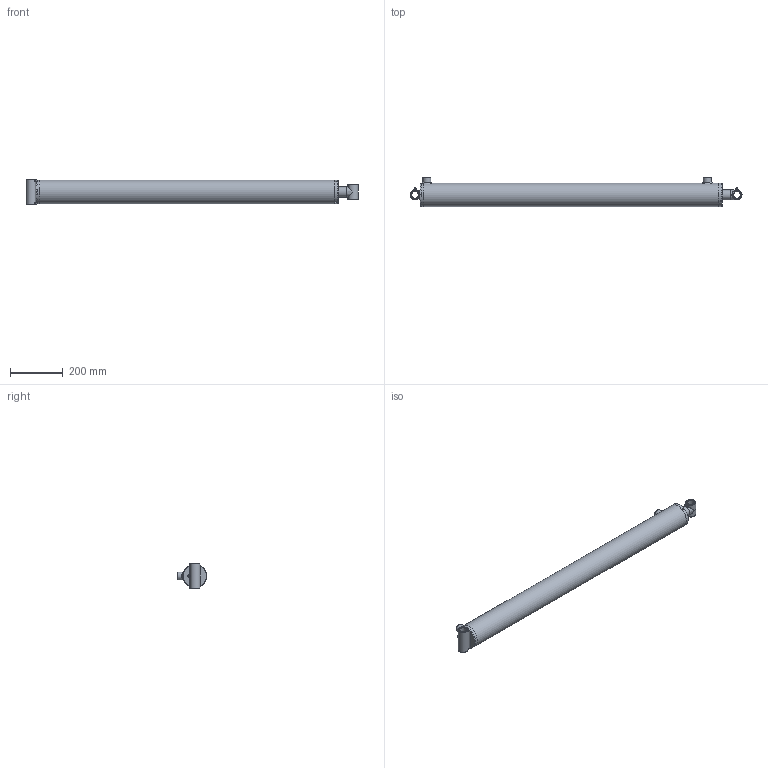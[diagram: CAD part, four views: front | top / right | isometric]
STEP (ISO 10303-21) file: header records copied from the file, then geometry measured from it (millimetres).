
FILE_DESCRIPTION(/* description */ (''),/* implementation_level */ '2;1');
FILE_NAME(/* name */ 'C:\01 - Philip\00 - Philip Rivard\01 - Contracts\Eagle Hydraulic Components\00 - 3D Cylinder\HBU3040\HBU3040.stp',/* time_stamp */ '2015-06-21T20:02:14-04:00',/* author */ ('Philip'),/* organization */ (''),/* preprocessor_version */ 'ST-DEVELOPER v16.1',/* originating_system */ 'Autodesk Inventor 2016',/* authorisation */ '');
FILE_SCHEMA (('AUTOMOTIVE_DESIGN { 1 0 10303 214 3 1 1 }'));
Length unit declared in the file: inch
Products named in the file (12): Tube_Assembly_Welds; Tube; ECP-30-HBU; Straight_Port; Tube_Assembly; Rod_Assembly_Welds; Rod; Bushing; Rod_Assembly; Gland; Grease Fitting 1-8; HBU3040
Assembly tree (13 placements, depth 3):
  HBU3040
    Tube_Assembly
      Tube_Assembly_Welds
      Tube
      ECP-30-HBU
      Straight_Port  x2
    Rod_Assembly
      Rod_Assembly_Welds
      Rod
      Bushing
    Gland
    Grease Fitting 1-8  x2
Bounding box: 1257.3 x 110.9 x 95.2 mm (x, y, z)
Volume: 3524670.1 mm3; surface area: 822151 mm2
Topology: 12 solids, 12 shells, 198 faces, 435 edges, 265 vertices
Faces by surface type: cone 65, plane 55, cylinder 50, torus 15, bspline 11, sphere 2
Full cylindrical faces by diameter (mm): 4 x2, 5 x1, 8 x2, 10 x4, 17.323 x2, 22 x1, 25.65 x4, 26.25 x2, 30 x4, 38.1 x3, 38.15 x1, 50.8 x1, 64 x1, 75 x1, 76.048 x1, 76.15 x1, 76.2 x1, 80 x2, 81 x2, 88 x1, 88.9 x1
Entity records: 6374 total; most frequent: CARTESIAN_POINT 3170, DIRECTION 630, ORIENTED_EDGE 494, AXIS2_PLACEMENT_3D 293, EDGE_LOOP 271, EDGE_CURVE 247, VERTEX_POINT 194, ADVANCED_FACE 158
